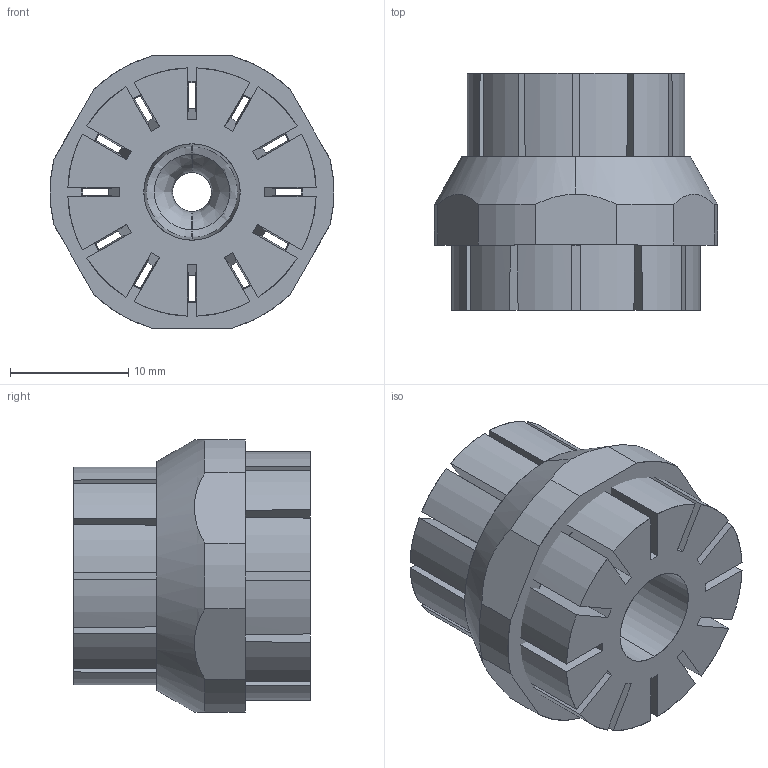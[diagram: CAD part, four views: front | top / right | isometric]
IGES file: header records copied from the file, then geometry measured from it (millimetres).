
Start section: SolidWorks IGES file using analytic representation for surfaces
Global section: file name: G:\Silvent\Ritningar\Övrigt\IGES\Silvent 705 L LP.IGS; native system: SolidWorks 2011; preprocessor: SolidWorks 2011; author: silvpesv; date: 110817.084748; units: millimetre
Bounding box: 24 x 20 x 23 mm (x, y, z)
Surface area: 4973 mm2 (no closed solid volume)
Topology: 0 solids, 0 shells, 113 faces, 1076 edges, 1076 vertices
Faces by surface type: bspline 69, revolution 44
